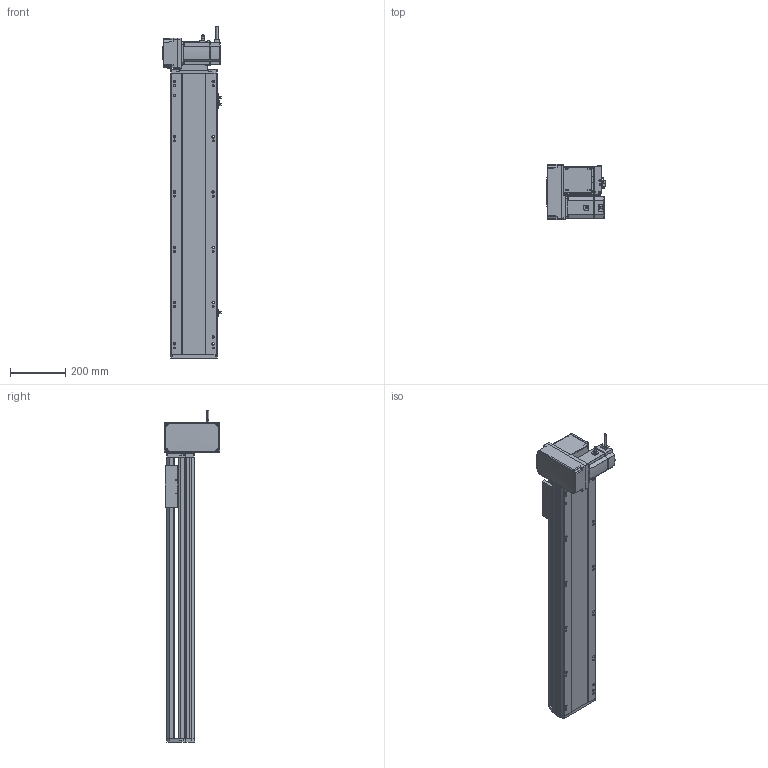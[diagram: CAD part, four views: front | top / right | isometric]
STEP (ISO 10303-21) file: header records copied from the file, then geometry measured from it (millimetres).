
FILE_DESCRIPTION (( 'STEP AP214' ), '1' );
FILE_NAME ('RTB17S-XX-750-LM-M75-C4.STEP', '2025-12-12T00:36:47', ( '' ), ( '' ), 'SwSTEP 2.0', 'SolidWorks 2018', '' );
FILE_SCHEMA (( 'AUTOMOTIVE_DESIGN' ));
Length unit declared in the file: millimetre
Products named in the file (15): RTB17S-L-014-T20-P75--々湍釱^RTB17S-LM-々湍釱蚾饜-750W_RTB17S-XX-XX-LM-M75-C4; 750W萇儂^RTB17S-XX-XX-LM-M75-C4; RTB22S-GY-008-M75--萇儂啣^RTB17S-LM-々湍釱蚾饜-750W_RTB17S-XX-XX-LM-M75-C4; RTB17S-L-007奻裔^RTB17S-XX-XX-LM-M75-C4; RTB17S-L-004-賑釱^RTB17S-賑釱_RTB17S-XX-XX-LM-M75-C4; RTB17S-LM-々湍釱蚾饜-750W^RTB17S-XX-XX-LM-M75-C4; RTB22S-GY-017P^RTB17S-LM-々湍釱蚾饜-750W_RTB17S-XX-XX-LM-M75-C4; RTB17-R-011菁釱^RTB17S-XX-XX-LM-M75-C4; RTB17S-賑釱^RTB17S-XX-XX-LM-M75-C4; EE672^RTB17S-XX-XX-LM-M75-C4; RTB22S-GY-018P^RTB17S-LM-々湍釱蚾饜-750W_RTB17S-XX-XX-LM-M75-C4; RTB17S-XX-750-LM-M75-C4; RTH13-BL-012覜茼え俋离^RTB17S-賑釱_RTB17S-XX-XX-LM-M75-C4; RTB22S-GY-005P^RTB17S-LM-々湍釱蚾饜-750W_RTB17S-XX-XX-LM-M75-C4; RTB17S-L-001-耜醱啣^RTB17S-XX-XX-LM-M75-C4
Assembly tree (17 placements, depth 3):
  RTB17S-XX-750-LM-M75-C4
    RTB17-R-011菁釱^RTB17S-XX-XX-LM-M75-C4
    EE672^RTB17S-XX-XX-LM-M75-C4  x3
    RTB17S-L-001-耜醱啣^RTB17S-XX-XX-LM-M75-C4
    RTB17S-賑釱^RTB17S-XX-XX-LM-M75-C4
      RTB17S-L-004-賑釱^RTB17S-賑釱_RTB17S-XX-XX-LM-M75-C4
      RTH13-BL-012覜茼え俋离^RTB17S-賑釱_RTB17S-XX-XX-LM-M75-C4
    RTB17S-L-007奻裔^RTB17S-XX-XX-LM-M75-C4
    750W萇儂^RTB17S-XX-XX-LM-M75-C4
    RTB17S-LM-々湍釱蚾饜-750W^RTB17S-XX-XX-LM-M75-C4
      RTB17S-L-014-T20-P75--々湍釱^RTB17S-LM-々湍釱蚾饜-750W_RTB17S-XX-XX-LM-M75-C4
      RTB22S-GY-005P^RTB17S-LM-々湍釱蚾饜-750W_RTB17S-XX-XX-LM-M75-C4
      RTB22S-GY-017P^RTB17S-LM-々湍釱蚾饜-750W_RTB17S-XX-XX-LM-M75-C4  x2
      RTB22S-GY-008-M75--萇儂啣^RTB17S-LM-々湍釱蚾饜-750W_RTB17S-XX-XX-LM-M75-C4
      RTB22S-GY-018P^RTB17S-LM-々湍釱蚾饜-750W_RTB17S-XX-XX-LM-M75-C4
Bounding box: 210.4 x 200 x 1202.2 mm (x, y, z)
Volume: 10638349.4 mm3; surface area: 1763836.8 mm2
Topology: 17 solids, 17 shells, 2073 faces, 5728 edges, 3698 vertices
Faces by surface type: plane 968, cylinder 689, bspline 294, cone 110, sphere 8, torus 4
Entity records: 57334 total; most frequent: CARTESIAN_POINT 16792, ORIENTED_EDGE 8300, DIRECTION 7772, EDGE_CURVE 4150, AXIS2_PLACEMENT_3D 2718, VERTEX_POINT 2702, VECTOR 2336, LINE 2336
